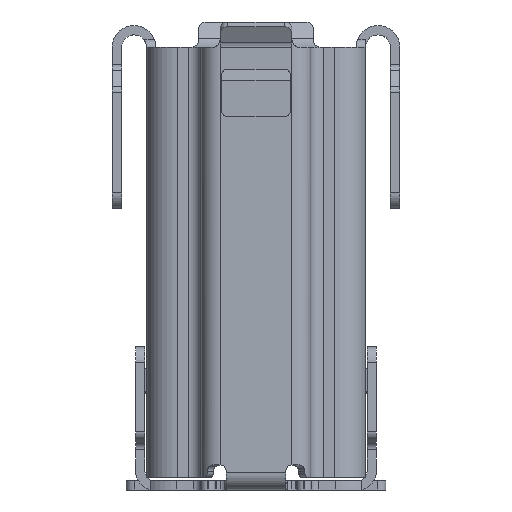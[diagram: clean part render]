
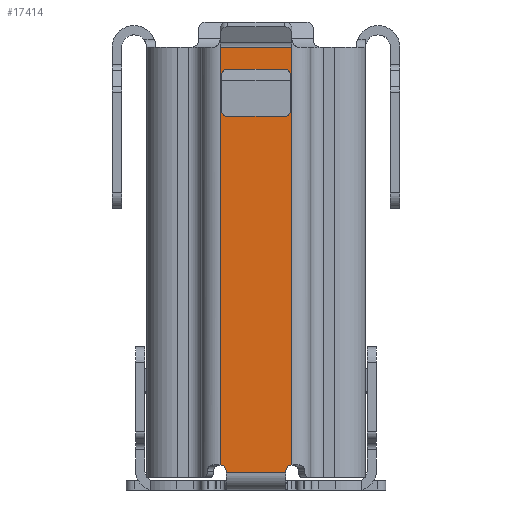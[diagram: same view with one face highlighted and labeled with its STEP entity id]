
A CAD part, front view. The second image highlights one B-rep face of the part: STEP entity #17414.
In plain terms, the highlighted planar face has unit normal (0, -1, 0).
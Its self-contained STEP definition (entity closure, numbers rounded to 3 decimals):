
#3403=DIRECTION('',(0.,0.,1.));
#3404=VECTOR('',#3403,13.35);
#3405=CARTESIAN_POINT('',(1.15,-3.05,-7.4));
#3406=LINE('',#3405,#3404);
#3539=DIRECTION('',(0.,0.,1.));
#3540=VECTOR('',#3539,0.05);
#3541=CARTESIAN_POINT('',(-0.95,-3.05,-7.65));
#3542=LINE('',#3541,#3540);
#3543=CARTESIAN_POINT('',(-1.15,-3.05,-7.6));
#3544=DIRECTION('',(0.,-1.,0.));
#3545=DIRECTION('',(1.,0.,0.));
#3546=AXIS2_PLACEMENT_3D('',#3543,#3544,#3545);
#3548=CARTESIAN_POINT('',(1.15,-3.05,-7.6));
#3549=DIRECTION('',(0.,-1.,0.));
#3550=DIRECTION('',(0.,0.,1.));
#3551=AXIS2_PLACEMENT_3D('',#3548,#3549,#3550);
#3553=DIRECTION('',(0.,0.,-1.));
#3554=VECTOR('',#3553,0.05);
#3555=CARTESIAN_POINT('',(0.95,-3.05,-7.6));
#3556=LINE('',#3555,#3554);
#3557=DIRECTION('',(0.,0.,-1.));
#3558=VECTOR('',#3557,1.2);
#3559=CARTESIAN_POINT('',(-1.09,-3.05,5.1));
#3560=LINE('',#3559,#3558);
#3561=CARTESIAN_POINT('',(-0.94,-3.05,3.9));
#3562=DIRECTION('',(0.,-1.,0.));
#3563=DIRECTION('',(-1.,0.,0.));
#3564=AXIS2_PLACEMENT_3D('',#3561,#3562,#3563);
#3566=DIRECTION('',(1.,0.,0.));
#3567=VECTOR('',#3566,1.88);
#3568=CARTESIAN_POINT('',(-0.94,-3.05,3.75));
#3569=LINE('',#3568,#3567);
#3570=CARTESIAN_POINT('',(0.94,-3.05,3.9));
#3571=DIRECTION('',(0.,-1.,0.));
#3572=DIRECTION('',(0.,0.,-1.));
#3573=AXIS2_PLACEMENT_3D('',#3570,#3571,#3572);
#3575=DIRECTION('',(0.,0.,1.));
#3576=VECTOR('',#3575,1.2);
#3577=CARTESIAN_POINT('',(1.09,-3.05,3.9));
#3578=LINE('',#3577,#3576);
#3579=CARTESIAN_POINT('',(0.94,-3.05,5.1));
#3580=DIRECTION('',(0.,-1.,0.));
#3581=DIRECTION('',(1.,0.,0.));
#3582=AXIS2_PLACEMENT_3D('',#3579,#3580,#3581);
#3584=DIRECTION('',(-1.,0.,0.));
#3585=VECTOR('',#3584,1.88);
#3586=CARTESIAN_POINT('',(0.94,-3.05,5.25));
#3587=LINE('',#3586,#3585);
#3588=CARTESIAN_POINT('',(-0.94,-3.05,5.1));
#3589=DIRECTION('',(0.,-1.,0.));
#3590=DIRECTION('',(0.,0.,1.));
#3591=AXIS2_PLACEMENT_3D('',#3588,#3589,#3590);
#3611=DIRECTION('',(1.,0.,0.));
#3612=VECTOR('',#3611,1.9);
#3613=CARTESIAN_POINT('',(-0.95,-3.05,-7.65));
#3614=LINE('',#3613,#3612);
#4009=DIRECTION('',(0.,0.,-1.));
#4010=VECTOR('',#4009,13.35);
#4011=CARTESIAN_POINT('',(-1.15,-3.05,5.95));
#4012=LINE('',#4011,#4010);
#5645=DIRECTION('',(-1.,0.,0.));
#5646=VECTOR('',#5645,2.3);
#5647=CARTESIAN_POINT('',(1.15,-3.05,5.95));
#5648=LINE('',#5647,#5646);
#11165=CARTESIAN_POINT('',(-0.95,-3.05,-7.6));
#11166=VERTEX_POINT('',#11165);
#11167=CARTESIAN_POINT('',(-0.95,-3.05,-7.65));
#11168=VERTEX_POINT('',#11167);
#11169=CARTESIAN_POINT('',(-1.15,-3.05,-7.4));
#11170=VERTEX_POINT('',#11169);
#11195=CARTESIAN_POINT('',(-1.15,-3.05,5.95));
#11197=VERTEX_POINT('',#11195);
#11213=CARTESIAN_POINT('',(1.15,-3.05,-7.4));
#11214=VERTEX_POINT('',#11213);
#11215=CARTESIAN_POINT('',(1.15,-3.05,5.95));
#11216=VERTEX_POINT('',#11215);
#11527=CARTESIAN_POINT('',(0.95,-3.05,-7.6));
#11528=VERTEX_POINT('',#11527);
#11529=CARTESIAN_POINT('',(0.95,-3.05,-7.65));
#11530=VERTEX_POINT('',#11529);
#11831=CARTESIAN_POINT('',(-1.09,-3.05,5.1));
#11832=CARTESIAN_POINT('',(-1.09,-3.05,3.9));
#11833=VERTEX_POINT('',#11831);
#11834=VERTEX_POINT('',#11832);
#11835=CARTESIAN_POINT('',(-0.94,-3.05,3.75));
#11836=VERTEX_POINT('',#11835);
#11837=CARTESIAN_POINT('',(0.94,-3.05,3.75));
#11838=VERTEX_POINT('',#11837);
#11839=CARTESIAN_POINT('',(1.09,-3.05,3.9));
#11840=VERTEX_POINT('',#11839);
#11841=CARTESIAN_POINT('',(1.09,-3.05,5.1));
#11842=VERTEX_POINT('',#11841);
#11843=CARTESIAN_POINT('',(0.94,-3.05,5.25));
#11844=VERTEX_POINT('',#11843);
#11845=CARTESIAN_POINT('',(-0.94,-3.05,5.25));
#11846=VERTEX_POINT('',#11845);
#17382=CARTESIAN_POINT('',(0.,-3.05,5.95));
#17383=DIRECTION('',(0.,-1.,0.));
#17384=DIRECTION('',(0.,0.,-1.));
#17385=AXIS2_PLACEMENT_3D('',#17382,#17383,#17384);
#17386=PLANE('',#17385);
#17388=ORIENTED_EDGE('',*,*,#17387,.F.);
#17390=ORIENTED_EDGE('',*,*,#17389,.T.);
#17392=ORIENTED_EDGE('',*,*,#17391,.T.);
#17394=ORIENTED_EDGE('',*,*,#17393,.F.);
#17396=ORIENTED_EDGE('',*,*,#17395,.F.);
#17397=ORIENTED_EDGE('',*,*,#17135,.F.);
#17399=ORIENTED_EDGE('',*,*,#17398,.T.);
#17401=ORIENTED_EDGE('',*,*,#17400,.T.);
#17402=EDGE_LOOP('',(#17388,#17390,#17392,#17394,#17396,#17397,#17399,#17401));
#17403=FACE_OUTER_BOUND('',#17402,.F.);
#17404=ORIENTED_EDGE('',*,*,#17278,.T.);
#17405=ORIENTED_EDGE('',*,*,#17293,.T.);
#17406=ORIENTED_EDGE('',*,*,#17307,.T.);
#17407=ORIENTED_EDGE('',*,*,#17321,.T.);
#17408=ORIENTED_EDGE('',*,*,#17335,.T.);
#17409=ORIENTED_EDGE('',*,*,#17349,.T.);
#17410=ORIENTED_EDGE('',*,*,#17363,.T.);
#17411=ORIENTED_EDGE('',*,*,#17376,.T.);
#17412=EDGE_LOOP('',(#17404,#17405,#17406,#17407,#17408,#17409,#17410,#17411));
#17413=FACE_BOUND('',#17412,.F.);
#17414=ADVANCED_FACE('',(#17403,#17413),#17386,.T.);
#3547=CIRCLE('',#3546,0.2);
#3552=CIRCLE('',#3551,0.2);
#3565=CIRCLE('',#3564,0.15);
#3574=CIRCLE('',#3573,0.15);
#3583=CIRCLE('',#3582,0.15);
#3592=CIRCLE('',#3591,0.15);
#17135=EDGE_CURVE('',#11214,#11216,#3406,.T.);
#17278=EDGE_CURVE('',#11833,#11834,#3560,.T.);
#17293=EDGE_CURVE('',#11834,#11836,#3565,.T.);
#17307=EDGE_CURVE('',#11836,#11838,#3569,.T.);
#17321=EDGE_CURVE('',#11838,#11840,#3574,.T.);
#17335=EDGE_CURVE('',#11840,#11842,#3578,.T.);
#17349=EDGE_CURVE('',#11842,#11844,#3583,.T.);
#17363=EDGE_CURVE('',#11844,#11846,#3587,.T.);
#17376=EDGE_CURVE('',#11846,#11833,#3592,.T.);
#17387=EDGE_CURVE('',#11168,#11530,#3614,.T.);
#17389=EDGE_CURVE('',#11168,#11166,#3542,.T.);
#17391=EDGE_CURVE('',#11166,#11170,#3547,.T.);
#17393=EDGE_CURVE('',#11197,#11170,#4012,.T.);
#17395=EDGE_CURVE('',#11216,#11197,#5648,.T.);
#17398=EDGE_CURVE('',#11214,#11528,#3552,.T.);
#17400=EDGE_CURVE('',#11528,#11530,#3556,.T.);
